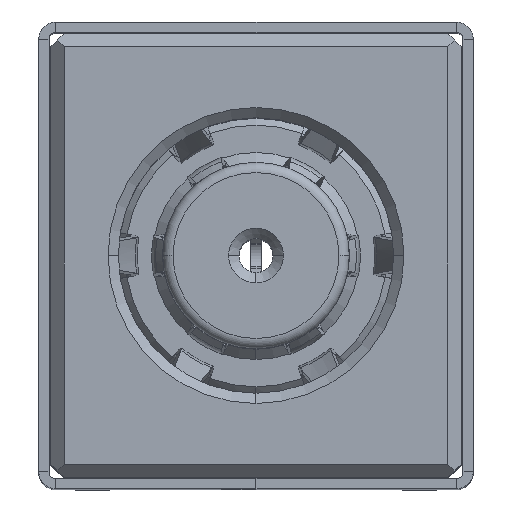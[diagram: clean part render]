
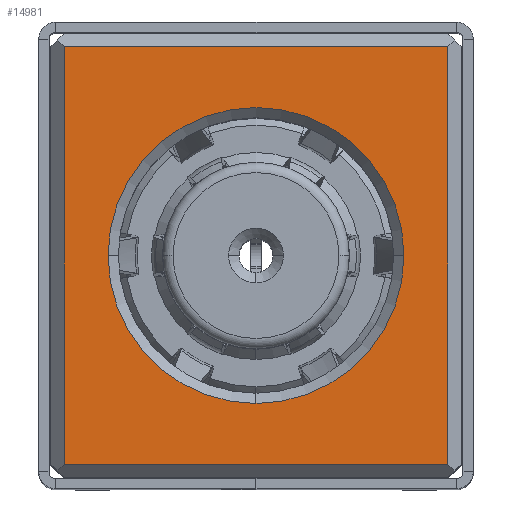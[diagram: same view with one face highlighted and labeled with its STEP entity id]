
A CAD part, top view. The second image highlights one B-rep face of the part: STEP entity #14981.
In plain terms, the highlighted planar face has unit normal (0, 0, 1).
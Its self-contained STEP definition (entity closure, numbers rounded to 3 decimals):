
#1081 = ORIENTED_EDGE ( 'NONE', *, *, #9363, .T. ) ;
#1393 = ORIENTED_EDGE ( 'NONE', *, *, #7439, .T. ) ;
#2299 = PLANE ( 'NONE',  #17596 ) ;
#2746 = ORIENTED_EDGE ( 'NONE', *, *, #5899, .T. ) ;
#3050 = ORIENTED_EDGE ( 'NONE', *, *, #37839, .T. ) ;
#4101 = CARTESIAN_POINT ( 'NONE',  ( -5.6, 6.1, 9.95 ) ) ;
#5021 = VERTEX_POINT ( 'NONE', #9523 ) ;
#5040 = DIRECTION ( 'NONE',  ( 0., -1., 0. ) ) ;
#5113 = DIRECTION ( 'NONE',  ( -1., 0., 0. ) ) ;
#5218 = DIRECTION ( 'NONE',  ( 0., 0., -1. ) ) ;
#5899 = EDGE_CURVE ( 'NONE', #5021, #33831, #38081, .T. ) ;
#6160 = EDGE_CURVE ( 'NONE', #41912, #29611, #11547, .T. ) ;
#7439 = EDGE_CURVE ( 'NONE', #29611, #11056, #28436, .T. ) ;
#8629 = DIRECTION ( 'NONE',  ( 0., 0., 1. ) ) ;
#9363 = EDGE_CURVE ( 'NONE', #11056, #41912, #32713, .T. ) ;
#9523 = CARTESIAN_POINT ( 'NONE',  ( 5.6, 6.1, 9.95 ) ) ;
#10158 = VECTOR ( 'NONE', #21943, 1000. ) ;
#10381 = CARTESIAN_POINT ( 'NONE',  ( 5.6, -6.1, 9.95 ) ) ;
#11056 = VERTEX_POINT ( 'NONE', #23177 ) ;
#11106 = DIRECTION ( 'NONE',  ( 1., 0., 0. ) ) ;
#11547 = CIRCLE ( 'NONE', #35253, 4.325 ) ;
#12312 = CARTESIAN_POINT ( 'NONE',  ( 0., -4.325, 9.95 ) ) ;
#12828 = CARTESIAN_POINT ( 'NONE',  ( 5.6, 6.1, 9.95 ) ) ;
#13204 = ORIENTED_EDGE ( 'NONE', *, *, #6160, .T. ) ;
#14981 = ADVANCED_FACE ( 'NONE', ( #28784, #18593 ), #2299, .T. ) ;
#15416 = DIRECTION ( 'NONE',  ( 1., 0., 0. ) ) ;
#15710 = EDGE_LOOP ( 'NONE', ( #1393, #1081, #13204 ) ) ;
#15731 = CARTESIAN_POINT ( 'NONE',  ( 0., 0., 9.95 ) ) ;
#15766 = CARTESIAN_POINT ( 'NONE',  ( 5.6, -6.1, 9.95 ) ) ;
#17516 = VERTEX_POINT ( 'NONE', #10381 ) ;
#17596 = AXIS2_PLACEMENT_3D ( 'NONE', #41726, #8629, #15416 ) ;
#17954 = LINE ( 'NONE', #30068, #22621 ) ;
#18593 = FACE_BOUND ( 'NONE', #15710, .T. ) ;
#18728 = LINE ( 'NONE', #15766, #37435 ) ;
#20851 = CARTESIAN_POINT ( 'NONE',  ( 0., 0., 9.95 ) ) ;
#21061 = DIRECTION ( 'NONE',  ( 0., 0., -1. ) ) ;
#21211 = DIRECTION ( 'NONE',  ( 0., 0., -1. ) ) ;
#21563 = EDGE_CURVE ( 'NONE', #39785, #17516, #33998, .T. ) ;
#21784 = VECTOR ( 'NONE', #33163, 1000. ) ;
#21943 = DIRECTION ( 'NONE',  ( -1., 0., 0. ) ) ;
#22510 = DIRECTION ( 'NONE',  ( 1., 0., 0. ) ) ;
#22621 = VECTOR ( 'NONE', #5040, 1000. ) ;
#23177 = CARTESIAN_POINT ( 'NONE',  ( 4.325, 0., 9.95 ) ) ;
#24549 = AXIS2_PLACEMENT_3D ( 'NONE', #15731, #5218, #22510 ) ;
#24596 = EDGE_CURVE ( 'NONE', #17516, #5021, #18728, .T. ) ;
#25252 = CARTESIAN_POINT ( 'NONE',  ( -5.6, -6.1, 9.95 ) ) ;
#27124 = EDGE_LOOP ( 'NONE', ( #2746, #3050, #41820, #38567 ) ) ;
#28007 = CARTESIAN_POINT ( 'NONE',  ( 0., 0., 9.95 ) ) ;
#28436 = CIRCLE ( 'NONE', #32497, 4.325 ) ;
#28784 = FACE_OUTER_BOUND ( 'NONE', #27124, .T. ) ;
#28916 = DIRECTION ( 'NONE',  ( 0., 1., 0. ) ) ;
#29611 = VERTEX_POINT ( 'NONE', #41444 ) ;
#30068 = CARTESIAN_POINT ( 'NONE',  ( -5.6, 6.1, 9.95 ) ) ;
#32497 = AXIS2_PLACEMENT_3D ( 'NONE', #28007, #21211, #5113 ) ;
#32713 = CIRCLE ( 'NONE', #24549, 4.325 ) ;
#33163 = DIRECTION ( 'NONE',  ( 1., 0., 0. ) ) ;
#33584 = CARTESIAN_POINT ( 'NONE',  ( -5.6, -6.1, 9.95 ) ) ;
#33831 = VERTEX_POINT ( 'NONE', #4101 ) ;
#33998 = LINE ( 'NONE', #33584, #21784 ) ;
#35253 = AXIS2_PLACEMENT_3D ( 'NONE', #20851, #21061, #11106 ) ;
#37435 = VECTOR ( 'NONE', #28916, 1000. ) ;
#37839 = EDGE_CURVE ( 'NONE', #33831, #39785, #17954, .T. ) ;
#38081 = LINE ( 'NONE', #12828, #10158 ) ;
#38567 = ORIENTED_EDGE ( 'NONE', *, *, #24596, .T. ) ;
#39785 = VERTEX_POINT ( 'NONE', #25252 ) ;
#41444 = CARTESIAN_POINT ( 'NONE',  ( -4.325, 0., 9.95 ) ) ;
#41726 = CARTESIAN_POINT ( 'NONE',  ( 0., 0., 9.95 ) ) ;
#41820 = ORIENTED_EDGE ( 'NONE', *, *, #21563, .T. ) ;
#41912 = VERTEX_POINT ( 'NONE', #12312 ) ;
